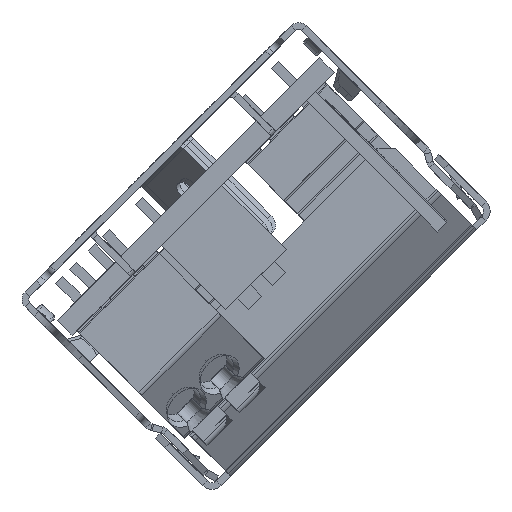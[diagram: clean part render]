
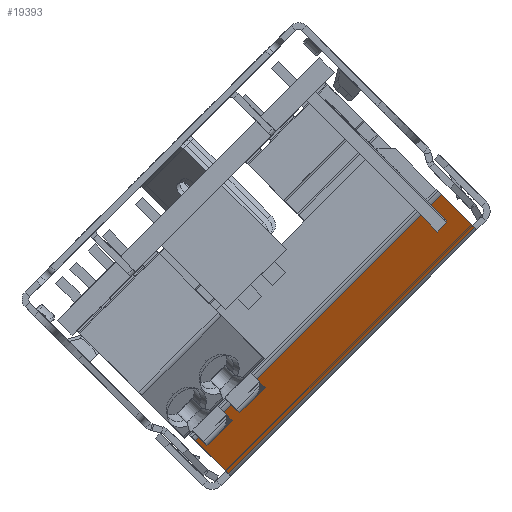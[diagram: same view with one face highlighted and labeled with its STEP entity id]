
A CAD part, left-side view. The second image highlights one B-rep face of the part: STEP entity #19393.
In plain terms, the highlighted planar face has unit normal (-0.707, -0.5, -0.5) as drawn and (-1, 0, 0) by its records, which use the part's own axes.
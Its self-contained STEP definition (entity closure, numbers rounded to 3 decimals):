
#372 = VECTOR ( 'NONE', #3981, 1000. ) ;
#1185 = CARTESIAN_POINT ( 'NONE',  ( 105.351, 0., 156.032 ) ) ;
#2622 = AXIS2_PLACEMENT_3D ( 'NONE', #8694, #28514, #14395 ) ;
#3981 = DIRECTION ( 'NONE',  ( 0., 0., -1. ) ) ;
#7385 = ORIENTED_EDGE ( 'NONE', *, *, #26114, .T. ) ;
#8694 = CARTESIAN_POINT ( 'NONE',  ( 105.351, 0., 194.391 ) ) ;
#9632 = CARTESIAN_POINT ( 'NONE',  ( 105.351, 251.725, 194.391 ) ) ;
#9694 = CARTESIAN_POINT ( 'NONE',  ( 105.351, 251.725, 151.007 ) ) ;
#10601 = VECTOR ( 'NONE', #20851, 1000. ) ;
#12322 = FACE_OUTER_BOUND ( 'NONE', #30528, .T. ) ;
#12578 = VECTOR ( 'NONE', #33614, 1000. ) ;
#13130 = ORIENTED_EDGE ( 'NONE', *, *, #17455, .F. ) ;
#14395 = DIRECTION ( 'NONE',  ( 0., 0., -1. ) ) ;
#15678 = LINE ( 'NONE', #27900, #12578 ) ;
#16838 = LINE ( 'NONE', #1185, #10601 ) ;
#17287 = ORIENTED_EDGE ( 'NONE', *, *, #18519, .T. ) ;
#17455 = EDGE_CURVE ( 'NONE', #24655, #19989, #26936, .T. ) ;
#17990 = CARTESIAN_POINT ( 'NONE',  ( 105.351, 225.454, 194.391 ) ) ;
#18519 = EDGE_CURVE ( 'NONE', #36162, #31524, #26589, .T. ) ;
#19393 = ADVANCED_FACE ( 'NONE', ( #12322 ), #25453, .F. ) ;
#19989 = VERTEX_POINT ( 'NONE', #31582 ) ;
#20851 = DIRECTION ( 'NONE',  ( 0., 1., 0. ) ) ;
#22687 = ORIENTED_EDGE ( 'NONE', *, *, #34080, .F. ) ;
#24655 = VERTEX_POINT ( 'NONE', #26837 ) ;
#25269 = VECTOR ( 'NONE', #29470, 1000. ) ;
#25453 = PLANE ( 'NONE',  #2622 ) ;
#26114 = EDGE_CURVE ( 'NONE', #24655, #36162, #16838, .T. ) ;
#26589 = LINE ( 'NONE', #9632, #25269 ) ;
#26837 = CARTESIAN_POINT ( 'NONE',  ( 105.351, 225.454, 156.032 ) ) ;
#26936 = LINE ( 'NONE', #17990, #372 ) ;
#27041 = CARTESIAN_POINT ( 'NONE',  ( 105.351, 251.725, 156.032 ) ) ;
#27900 = CARTESIAN_POINT ( 'NONE',  ( 105.351, 0., 151.007 ) ) ;
#28514 = DIRECTION ( 'NONE',  ( 1., 0., 0. ) ) ;
#29470 = DIRECTION ( 'NONE',  ( 0., 0., -1. ) ) ;
#30528 = EDGE_LOOP ( 'NONE', ( #22687, #13130, #7385, #17287 ) ) ;
#31524 = VERTEX_POINT ( 'NONE', #9694 ) ;
#31582 = CARTESIAN_POINT ( 'NONE',  ( 105.351, 225.454, 151.007 ) ) ;
#33614 = DIRECTION ( 'NONE',  ( 0., 1., 0. ) ) ;
#34080 = EDGE_CURVE ( 'NONE', #19989, #31524, #15678, .T. ) ;
#36162 = VERTEX_POINT ( 'NONE', #27041 ) ;
